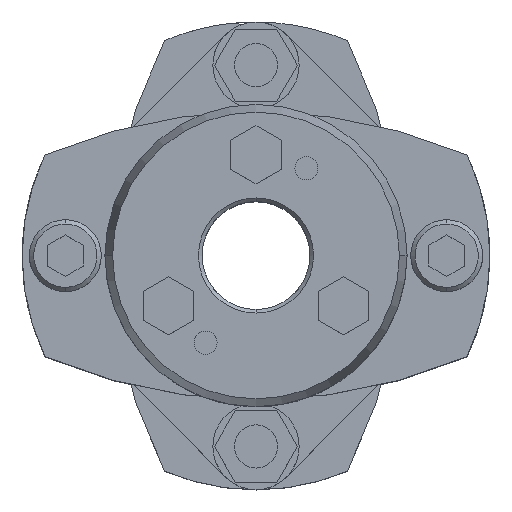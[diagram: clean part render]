
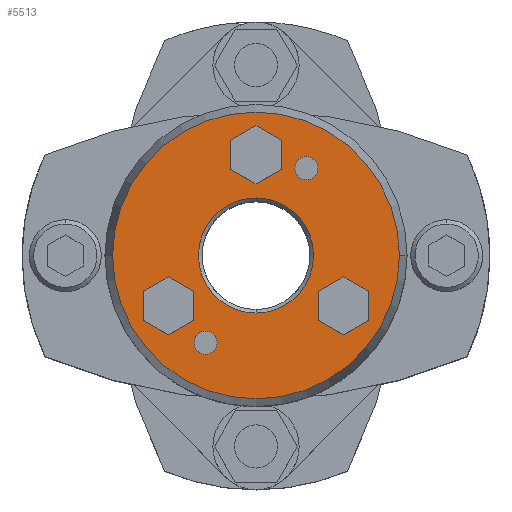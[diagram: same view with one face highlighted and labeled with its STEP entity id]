
A CAD part, top view. The second image highlights one B-rep face of the part: STEP entity #5513.
In plain terms, the highlighted planar face has unit normal (0, 0, 1).
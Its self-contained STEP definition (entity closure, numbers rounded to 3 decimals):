
#1783=CARTESIAN_POINT('',(-19.928,0.,40.0));
#1784=VERTEX_POINT('',#1783);
#1791=CARTESIAN_POINT('',(19.928,0.,40.0));
#1792=VERTEX_POINT('',#1791);
#1793=CARTESIAN_POINT('',(0.,0.,40.0));
#1794=DIRECTION('',(0.0,0.0,-1.0));
#1795=DIRECTION('',(-1.0,0.0,0.0));
#1796=AXIS2_PLACEMENT_3D('',#1793,#1794,#1795);
#1797=CIRCLE('',#1796,19.928);
#1798=EDGE_CURVE('',#1784,#1792,#1797,.T.);
#1893=CARTESIAN_POINT('',(0.,8.,40.0));
#1894=VERTEX_POINT('',#1893);
#1910=CARTESIAN_POINT('',(0.,-8.,40.0));
#1911=VERTEX_POINT('',#1910);
#1918=CARTESIAN_POINT('',(0.,0.,40.0));
#1919=DIRECTION('',(0.0,0.0,1.0));
#1920=DIRECTION('',(0.0,1.0,0.0));
#1921=AXIS2_PLACEMENT_3D('',#1918,#1919,#1920);
#1922=CIRCLE('',#1921,8.0);
#1923=EDGE_CURVE('',#1911,#1894,#1922,.T.);
#2041=CARTESIAN_POINT('',(7.,13.724,40.0));
#2042=VERTEX_POINT('',#2041);
#2058=CARTESIAN_POINT('',(7.,10.524,40.0));
#2059=VERTEX_POINT('',#2058);
#2066=CARTESIAN_POINT('',(7.,12.124,40.0));
#2067=DIRECTION('',(0.0,0.0,-1.0));
#2068=DIRECTION('',(0.0,1.0,0.0));
#2069=AXIS2_PLACEMENT_3D('',#2066,#2067,#2068);
#2070=CIRCLE('',#2069,1.6);
#2071=EDGE_CURVE('',#2042,#2059,#2070,.T.);
#2083=CARTESIAN_POINT('',(-7.,-10.524,40.0));
#2084=VERTEX_POINT('',#2083);
#2100=CARTESIAN_POINT('',(-7.,-13.724,40.0));
#2101=VERTEX_POINT('',#2100);
#2108=CARTESIAN_POINT('',(-7.,-12.124,40.0));
#2109=DIRECTION('',(0.0,0.0,-1.0));
#2110=DIRECTION('',(0.0,1.0,0.0));
#2111=AXIS2_PLACEMENT_3D('',#2108,#2109,#2110);
#2112=CIRCLE('',#2111,1.6);
#2113=EDGE_CURVE('',#2084,#2101,#2112,.T.);
#4716=CARTESIAN_POINT('',(-7.,-12.124,40.0));
#4717=DIRECTION('',(0.0,0.0,-1.0));
#4718=DIRECTION('',(0.0,1.0,0.0));
#4719=AXIS2_PLACEMENT_3D('',#4716,#4717,#4718);
#4720=CIRCLE('',#4719,1.6);
#4721=EDGE_CURVE('',#2101,#2084,#4720,.T.);
#4750=CARTESIAN_POINT('',(7.,12.124,40.0));
#4751=DIRECTION('',(0.0,0.0,-1.0));
#4752=DIRECTION('',(0.0,1.0,0.0));
#4753=AXIS2_PLACEMENT_3D('',#4750,#4751,#4752);
#4754=CIRCLE('',#4753,1.6);
#4755=EDGE_CURVE('',#2059,#2042,#4754,.T.);
#4793=CARTESIAN_POINT('',(0.,18.041,40.0));
#4794=VERTEX_POINT('',#4793);
#4801=CARTESIAN_POINT('',(-3.5,16.021,40.0));
#4802=VERTEX_POINT('',#4801);
#4803=CARTESIAN_POINT('',(-3.5,16.021,40.0));
#4804=DIRECTION('',(0.866,0.5,0.0));
#4805=VECTOR('',#4804,4.041);
#4806=LINE('',#4803,#4805);
#4807=EDGE_CURVE('',#4802,#4794,#4806,.T.);
#4831=CARTESIAN_POINT('',(3.5,16.021,40.0));
#4832=VERTEX_POINT('',#4831);
#4839=CARTESIAN_POINT('',(0.,18.041,40.0));
#4840=DIRECTION('',(0.866,-0.5,0.0));
#4841=VECTOR('',#4840,4.041);
#4842=LINE('',#4839,#4841);
#4843=EDGE_CURVE('',#4794,#4832,#4842,.T.);
#4862=CARTESIAN_POINT('',(3.5,11.979,40.0));
#4863=VERTEX_POINT('',#4862);
#4870=CARTESIAN_POINT('',(3.5,16.021,40.0));
#4871=DIRECTION('',(0.0,-1.0,0.0));
#4872=VECTOR('',#4871,4.041);
#4873=LINE('',#4870,#4872);
#4874=EDGE_CURVE('',#4832,#4863,#4873,.T.);
#4893=CARTESIAN_POINT('',(0.,9.959,40.0));
#4894=VERTEX_POINT('',#4893);
#4901=CARTESIAN_POINT('',(3.5,11.979,40.0));
#4902=DIRECTION('',(-0.866,-0.5,0.0));
#4903=VECTOR('',#4902,4.041);
#4904=LINE('',#4901,#4903);
#4905=EDGE_CURVE('',#4863,#4894,#4904,.T.);
#4924=CARTESIAN_POINT('',(-3.5,11.979,40.0));
#4925=VERTEX_POINT('',#4924);
#4932=CARTESIAN_POINT('',(0.,9.959,40.0));
#4933=DIRECTION('',(-0.866,0.5,0.0));
#4934=VECTOR('',#4933,4.041);
#4935=LINE('',#4932,#4934);
#4936=EDGE_CURVE('',#4894,#4925,#4935,.T.);
#4954=CARTESIAN_POINT('',(-3.5,11.979,40.0));
#4955=DIRECTION('',(0.0,1.0,0.0));
#4956=VECTOR('',#4955,4.041);
#4957=LINE('',#4954,#4956);
#4958=EDGE_CURVE('',#4925,#4802,#4957,.T.);
#4993=CARTESIAN_POINT('',(-12.124,-2.959,40.0));
#4994=VERTEX_POINT('',#4993);
#5001=CARTESIAN_POINT('',(-15.624,-4.979,40.0));
#5002=VERTEX_POINT('',#5001);
#5003=CARTESIAN_POINT('',(-15.624,-4.979,40.0));
#5004=DIRECTION('',(0.866,0.5,0.0));
#5005=VECTOR('',#5004,4.041);
#5006=LINE('',#5003,#5005);
#5007=EDGE_CURVE('',#5002,#4994,#5006,.T.);
#5031=CARTESIAN_POINT('',(-8.624,-4.979,40.0));
#5032=VERTEX_POINT('',#5031);
#5039=CARTESIAN_POINT('',(-12.124,-2.959,40.0));
#5040=DIRECTION('',(0.866,-0.5,0.0));
#5041=VECTOR('',#5040,4.041);
#5042=LINE('',#5039,#5041);
#5043=EDGE_CURVE('',#4994,#5032,#5042,.T.);
#5062=CARTESIAN_POINT('',(-8.624,-9.021,40.0));
#5063=VERTEX_POINT('',#5062);
#5070=CARTESIAN_POINT('',(-8.624,-4.979,40.0));
#5071=DIRECTION('',(0.0,-1.0,0.0));
#5072=VECTOR('',#5071,4.041);
#5073=LINE('',#5070,#5072);
#5074=EDGE_CURVE('',#5032,#5063,#5073,.T.);
#5093=CARTESIAN_POINT('',(-12.124,-11.041,40.0));
#5094=VERTEX_POINT('',#5093);
#5101=CARTESIAN_POINT('',(-8.624,-9.021,40.0));
#5102=DIRECTION('',(-0.866,-0.5,0.0));
#5103=VECTOR('',#5102,4.041);
#5104=LINE('',#5101,#5103);
#5105=EDGE_CURVE('',#5063,#5094,#5104,.T.);
#5124=CARTESIAN_POINT('',(-15.624,-9.021,40.0));
#5125=VERTEX_POINT('',#5124);
#5132=CARTESIAN_POINT('',(-12.124,-11.041,40.0));
#5133=DIRECTION('',(-0.866,0.5,0.0));
#5134=VECTOR('',#5133,4.041);
#5135=LINE('',#5132,#5134);
#5136=EDGE_CURVE('',#5094,#5125,#5135,.T.);
#5154=CARTESIAN_POINT('',(-15.624,-9.021,40.0));
#5155=DIRECTION('',(0.0,1.0,0.0));
#5156=VECTOR('',#5155,4.041);
#5157=LINE('',#5154,#5156);
#5158=EDGE_CURVE('',#5125,#5002,#5157,.T.);
#5193=CARTESIAN_POINT('',(12.124,-2.959,40.0));
#5194=VERTEX_POINT('',#5193);
#5201=CARTESIAN_POINT('',(8.624,-4.979,40.0));
#5202=VERTEX_POINT('',#5201);
#5203=CARTESIAN_POINT('',(8.624,-4.979,40.0));
#5204=DIRECTION('',(0.866,0.5,0.0));
#5205=VECTOR('',#5204,4.041);
#5206=LINE('',#5203,#5205);
#5207=EDGE_CURVE('',#5202,#5194,#5206,.T.);
#5231=CARTESIAN_POINT('',(15.624,-4.979,40.0));
#5232=VERTEX_POINT('',#5231);
#5239=CARTESIAN_POINT('',(12.124,-2.959,40.0));
#5240=DIRECTION('',(0.866,-0.5,0.0));
#5241=VECTOR('',#5240,4.041);
#5242=LINE('',#5239,#5241);
#5243=EDGE_CURVE('',#5194,#5232,#5242,.T.);
#5262=CARTESIAN_POINT('',(15.624,-9.021,40.0));
#5263=VERTEX_POINT('',#5262);
#5270=CARTESIAN_POINT('',(15.624,-4.979,40.0));
#5271=DIRECTION('',(0.0,-1.0,0.0));
#5272=VECTOR('',#5271,4.041);
#5273=LINE('',#5270,#5272);
#5274=EDGE_CURVE('',#5232,#5263,#5273,.T.);
#5293=CARTESIAN_POINT('',(12.124,-11.041,40.0));
#5294=VERTEX_POINT('',#5293);
#5301=CARTESIAN_POINT('',(15.624,-9.021,40.0));
#5302=DIRECTION('',(-0.866,-0.5,0.0));
#5303=VECTOR('',#5302,4.041);
#5304=LINE('',#5301,#5303);
#5305=EDGE_CURVE('',#5263,#5294,#5304,.T.);
#5324=CARTESIAN_POINT('',(8.624,-9.021,40.0));
#5325=VERTEX_POINT('',#5324);
#5332=CARTESIAN_POINT('',(12.124,-11.041,40.0));
#5333=DIRECTION('',(-0.866,0.5,0.0));
#5334=VECTOR('',#5333,4.041);
#5335=LINE('',#5332,#5334);
#5336=EDGE_CURVE('',#5294,#5325,#5335,.T.);
#5354=CARTESIAN_POINT('',(8.624,-9.021,40.0));
#5355=DIRECTION('',(0.0,1.0,0.0));
#5356=VECTOR('',#5355,4.041);
#5357=LINE('',#5354,#5356);
#5358=EDGE_CURVE('',#5325,#5202,#5357,.T.);
#5450=CARTESIAN_POINT('',(0.,0.,40.0));
#5451=DIRECTION('',(0.0,0.0,1.0));
#5452=DIRECTION('',(0.0,1.0,0.0));
#5453=AXIS2_PLACEMENT_3D('',#5450,#5451,#5452);
#5454=CIRCLE('',#5453,8.0);
#5455=EDGE_CURVE('',#1894,#1911,#5454,.T.);
#5462=CARTESIAN_POINT('',(-9.964,0.,40.0));
#5463=DIRECTION('',(0.0,0.0,1.0));
#5464=DIRECTION('',(0.0,1.0,0.0));
#5465=AXIS2_PLACEMENT_3D('',#5462,#5463,#5464);
#5466=PLANE('',#5465);
#5467=ORIENTED_EDGE('',*,*,#1798,.F.);
#5468=CARTESIAN_POINT('',(0.,0.,40.0));
#5469=DIRECTION('',(0.0,0.0,-1.0));
#5470=DIRECTION('',(-1.0,0.0,0.0));
#5471=AXIS2_PLACEMENT_3D('',#5468,#5469,#5470);
#5472=CIRCLE('',#5471,19.928);
#5473=EDGE_CURVE('',#1792,#1784,#5472,.T.);
#5474=ORIENTED_EDGE('',*,*,#5473,.F.);
#5475=EDGE_LOOP('',(#5467,#5474));
#5476=FACE_OUTER_BOUND('',#5475,.T.);
#5477=ORIENTED_EDGE('',*,*,#2113,.T.);
#5478=ORIENTED_EDGE('',*,*,#4721,.T.);
#5479=EDGE_LOOP('',(#5477,#5478));
#5480=FACE_BOUND('',#5479,.T.);
#5481=ORIENTED_EDGE('',*,*,#2071,.T.);
#5482=ORIENTED_EDGE('',*,*,#4755,.T.);
#5483=EDGE_LOOP('',(#5481,#5482));
#5484=FACE_BOUND('',#5483,.T.);
#5485=ORIENTED_EDGE('',*,*,#4807,.T.);
#5486=ORIENTED_EDGE('',*,*,#4843,.T.);
#5487=ORIENTED_EDGE('',*,*,#4874,.T.);
#5488=ORIENTED_EDGE('',*,*,#4905,.T.);
#5489=ORIENTED_EDGE('',*,*,#4936,.T.);
#5490=ORIENTED_EDGE('',*,*,#4958,.T.);
#5491=EDGE_LOOP('',(#5485,#5486,#5487,#5488,#5489,#5490));
#5492=FACE_BOUND('',#5491,.T.);
#5493=ORIENTED_EDGE('',*,*,#5007,.T.);
#5494=ORIENTED_EDGE('',*,*,#5043,.T.);
#5495=ORIENTED_EDGE('',*,*,#5074,.T.);
#5496=ORIENTED_EDGE('',*,*,#5105,.T.);
#5497=ORIENTED_EDGE('',*,*,#5136,.T.);
#5498=ORIENTED_EDGE('',*,*,#5158,.T.);
#5499=EDGE_LOOP('',(#5493,#5494,#5495,#5496,#5497,#5498));
#5500=FACE_BOUND('',#5499,.T.);
#5501=ORIENTED_EDGE('',*,*,#5207,.T.);
#5502=ORIENTED_EDGE('',*,*,#5243,.T.);
#5503=ORIENTED_EDGE('',*,*,#5274,.T.);
#5504=ORIENTED_EDGE('',*,*,#5305,.T.);
#5505=ORIENTED_EDGE('',*,*,#5336,.T.);
#5506=ORIENTED_EDGE('',*,*,#5358,.T.);
#5507=EDGE_LOOP('',(#5501,#5502,#5503,#5504,#5505,#5506));
#5508=FACE_BOUND('',#5507,.T.);
#5509=ORIENTED_EDGE('',*,*,#1923,.F.);
#5510=ORIENTED_EDGE('',*,*,#5455,.F.);
#5511=EDGE_LOOP('',(#5509,#5510));
#5512=FACE_BOUND('',#5511,.T.);
#5513=ADVANCED_FACE('',(#5476,#5480,#5484,#5492,#5500,#5508,#5512),#5466,.T.);
